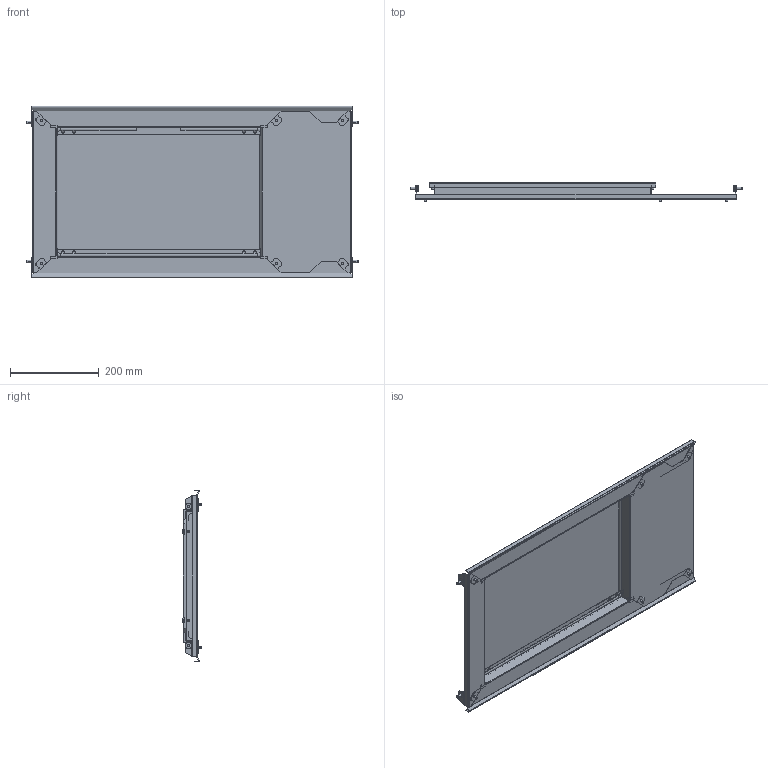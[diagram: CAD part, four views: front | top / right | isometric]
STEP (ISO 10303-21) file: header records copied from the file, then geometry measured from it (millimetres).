
FILE_DESCRIPTION((''),'2;1');
FILE_NAME('ASM0001_ASM','2021-04-10T12:50:11',('Prax-31'),(''),'CREO PARAMETRIC BY PTC INC, 2018300','CREO PARAMETRIC BY PTC INC, 2018300','');
FILE_SCHEMA(('CONFIG_CONTROL_DESIGN'));
Length unit declared in the file: millimetre
Products named in the file (2): 08487; ASM0001_ASM
Assembly tree (1 placements, depth 2):
  ASM0001_ASM
    08487
Bounding box: 750.1 x 42.05 x 387 mm (x, y, z)
Volume: 643125.9 mm3; surface area: 763258.2 mm2
Topology: 1 solids, 5 shells, 866 faces, 2335 edges, 1520 vertices
Faces by surface type: plane 575, cylinder 207, torus 36, cone 36, bspline 12
Entity records: 27902 total; most frequent: CARTESIAN_POINT 5932, ORIENTED_EDGE 4670, DIRECTION 4407, EDGE_CURVE 2335, VECTOR 1701, LINE 1701, VERTEX_POINT 1520, AXIS2_PLACEMENT_3D 1353
